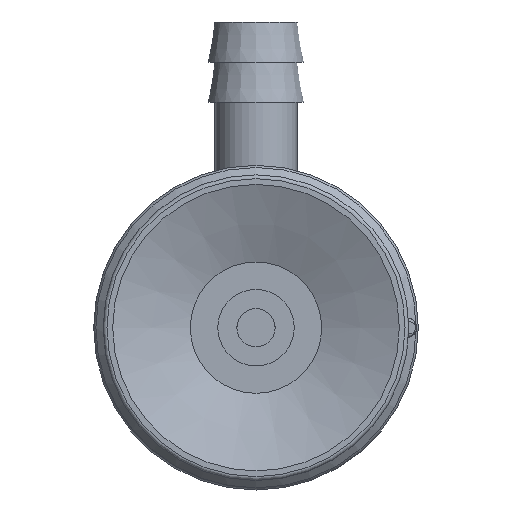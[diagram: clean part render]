
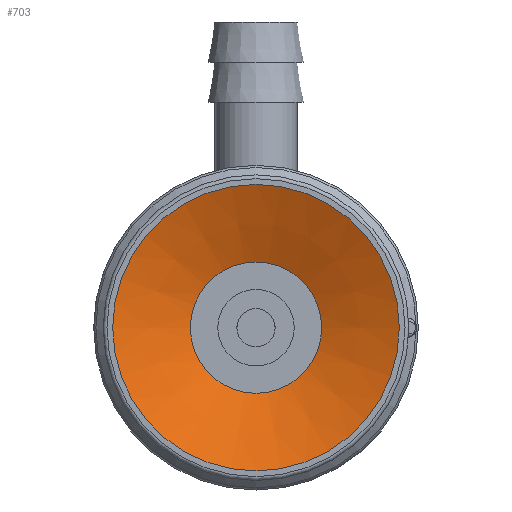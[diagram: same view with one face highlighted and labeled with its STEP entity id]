
A CAD part, front view. The second image highlights one B-rep face of the part: STEP entity #703.
In plain terms, the highlighted conical face has half-angle 67.5 degrees and reference radius 3.437 mm.
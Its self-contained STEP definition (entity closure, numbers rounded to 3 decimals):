
#703=ADVANCED_FACE('',(#1003,#1004),#1005,.F.);
#1003=FACE_BOUND('',#2383,.T.);
#1004=FACE_OUTER_BOUND('',#2384,.T.);
#1005=CONICAL_SURFACE('',#2385,3.437,1.178);
#2383=EDGE_LOOP('',(#3232));
#2384=EDGE_LOOP('',(#3233));
#2385=AXIS2_PLACEMENT_3D('',#3234,#3235,#3236);
#3232=ORIENTED_EDGE('',*,*,#3673,.F.);
#3233=ORIENTED_EDGE('',*,*,#3674,.T.);
#3234=CARTESIAN_POINT('',(0.0,0.0,1.683));
#3235=DIRECTION('',(0.0,0.,-1.0));
#3236=DIRECTION('',(0.0,1.0,0.));
#3673=EDGE_CURVE('',#4091,#4091,#4092,.T.);
#3674=EDGE_CURVE('',#4093,#4093,#4094,.T.);
#4091=VERTEX_POINT('',#5180);
#4092=CIRCLE('',#5181,3.437);
#4093=VERTEX_POINT('',#5182);
#4094=CIRCLE('',#5183,7.5);
#5180=CARTESIAN_POINT('',(-3.437,0.0,1.683));
#5181=AXIS2_PLACEMENT_3D('',#5570,#5571,#5572);
#5182=CARTESIAN_POINT('',(-7.5,0.0,0.));
#5183=AXIS2_PLACEMENT_3D('',#5573,#5574,#5575);
#5570=CARTESIAN_POINT('',(0.0,0.0,1.683));
#5571=DIRECTION('',(0.0,0.,-1.0));
#5572=DIRECTION('',(0.0,1.0,0.));
#5573=CARTESIAN_POINT('',(0.0,0.0,0.));
#5574=DIRECTION('',(0.0,0.,-1.0));
#5575=DIRECTION('',(0.0,1.0,0.));
